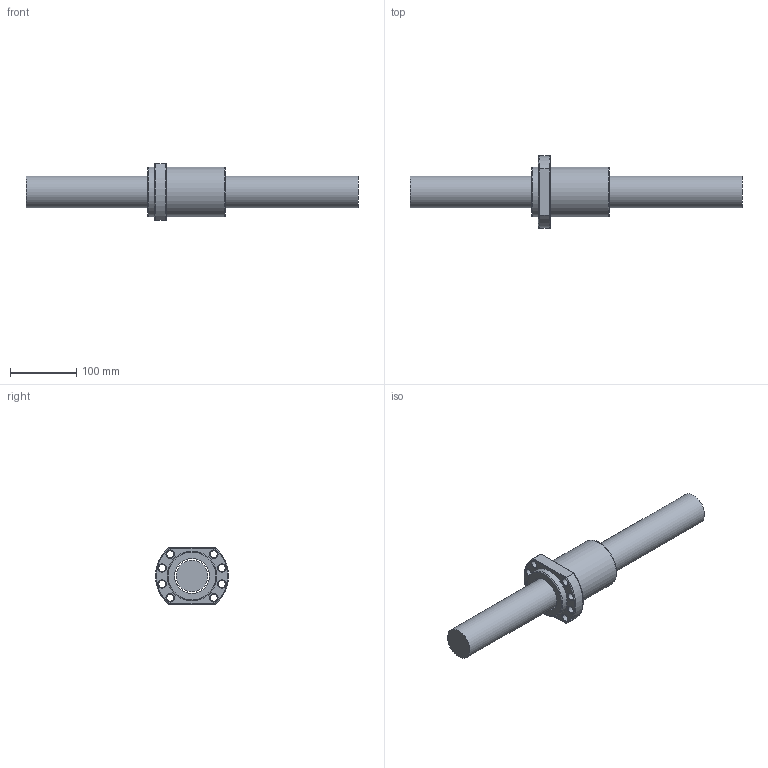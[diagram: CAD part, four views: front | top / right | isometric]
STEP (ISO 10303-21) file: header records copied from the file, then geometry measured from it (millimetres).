
FILE_DESCRIPTION (( 'STEP AP203' ), '1' );
FILE_NAME ('SFA5050-1.8.step', '2024-05-07T07:26:27', ( '' ), ( '' ), 'SwSTEP 2.0', 'SolidWorks 2022', '' );
FILE_SCHEMA (( 'CONFIG_CONTROL_DESIGN' ));
Length unit declared in the file: millimetre
Products named in the file (1): SFA5050-1.8
Bounding box: 500 x 109.65 x 85 mm (x, y, z)
Volume: 1225360.2 mm3; surface area: 142913.7 mm2
Topology: 2 solids, 2 shells, 63 faces, 152 edges, 95 vertices
Faces by surface type: cylinder 22, cone 17, plane 13, torus 6, bspline 5
Full cylindrical faces by diameter (mm): 4 x1, 7 x6, 11 x8, 48 x1, 52.3 x1, 75 x2
Entity records: 3409 total; most frequent: CARTESIAN_POINT 2196, DIRECTION 226, ORIENTED_EDGE 188, EDGE_LOOP 112, AXIS2_PLACEMENT_3D 105, EDGE_CURVE 94, VERTEX_POINT 78, FACE_OUTER_BOUND 73
